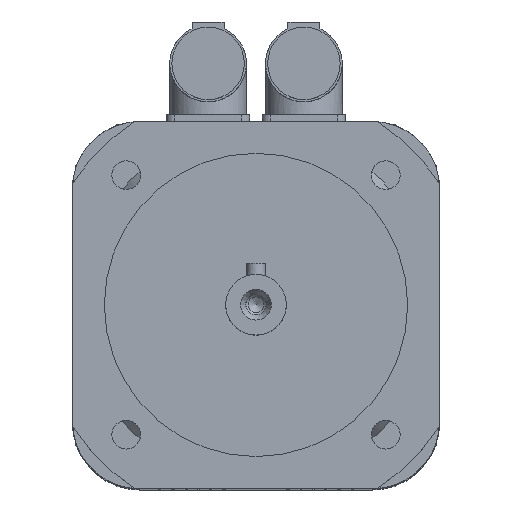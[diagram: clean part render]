
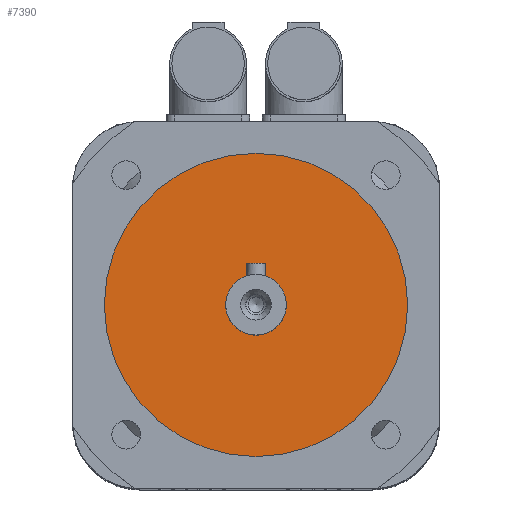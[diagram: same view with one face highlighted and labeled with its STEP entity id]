
A CAD part, top view. The second image highlights one B-rep face of the part: STEP entity #7390.
In plain terms, the highlighted planar face has unit normal (0, 0, 1).
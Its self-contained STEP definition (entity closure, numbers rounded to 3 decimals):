
#1603=PLANE('',#7889);
#2052=FACE_BOUND('',#2627,.T.);
#2146=FACE_OUTER_BOUND('',#2626,.T.);
#2626=EDGE_LOOP('',(#5423));
#2627=EDGE_LOOP('',(#5424));
#3132=CIRCLE('',#7888,9.5);
#3133=CIRCLE('',#7890,47.5);
#3541=VERTEX_POINT('',#11268);
#3542=VERTEX_POINT('',#11271);
#4274=EDGE_CURVE('',#3541,#3541,#3132,.T.);
#4275=EDGE_CURVE('',#3542,#3542,#3133,.T.);
#5423=ORIENTED_EDGE('',*,*,#4275,.F.);
#5424=ORIENTED_EDGE('',*,*,#4274,.T.);
#7390=ADVANCED_FACE('',(#2146,#2052),#1603,.T.);
#7888=AXIS2_PLACEMENT_3D('',#11269,#8858,#8859);
#7889=AXIS2_PLACEMENT_3D('',#11270,#8860,#8861);
#7890=AXIS2_PLACEMENT_3D('',#11272,#8862,#8863);
#8858=DIRECTION('center_axis',(0.,0.,-1.));
#8859=DIRECTION('ref_axis',(1.,0.,0.));
#8860=DIRECTION('center_axis',(0.,0.,1.));
#8861=DIRECTION('ref_axis',(1.,0.,0.));
#8862=DIRECTION('center_axis',(0.,0.,-1.));
#8863=DIRECTION('ref_axis',(1.,0.,0.));
#11268=CARTESIAN_POINT('',(0.,9.5,233.));
#11269=CARTESIAN_POINT('Origin',(0.,0.,233.));
#11270=CARTESIAN_POINT('Origin',(0.,47.5,233.));
#11271=CARTESIAN_POINT('',(0.,47.5,233.));
#11272=CARTESIAN_POINT('Origin',(0.,0.,233.));
